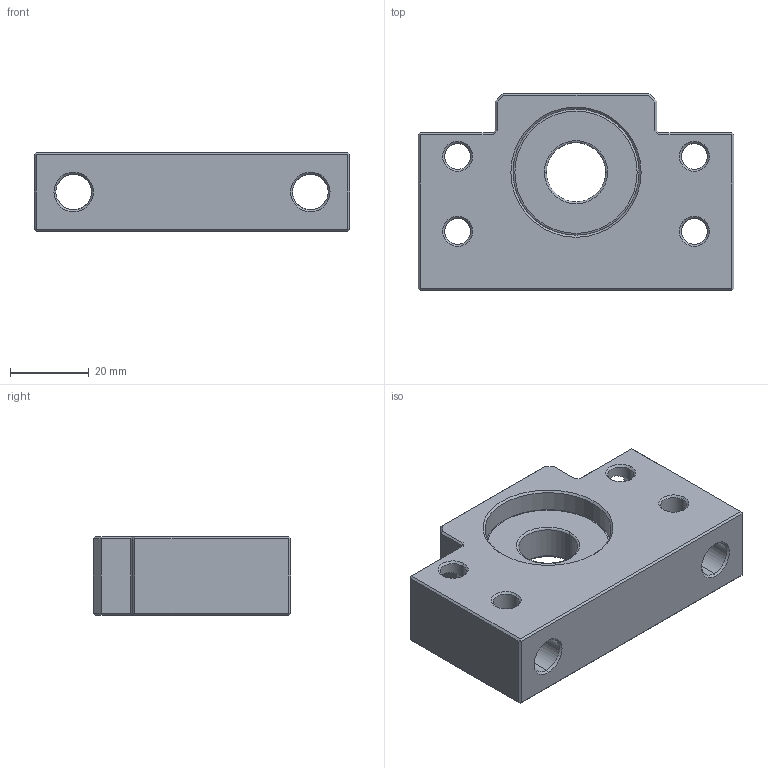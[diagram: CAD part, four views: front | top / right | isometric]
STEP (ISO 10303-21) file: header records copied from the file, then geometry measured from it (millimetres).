
FILE_DESCRIPTION (( 'STEP AP203' ), '1' );
FILE_NAME ('ASGF-15_203.STEP', '2013-02-26T00:36:34', ( '' ), ( '' ), 'SwSTEP 2.0', 'SolidWorks 2012', '' );
FILE_SCHEMA (( 'CONFIG_CONTROL_DESIGN' ));
Length unit declared in the file: millimetre
Products named in the file (1): ASGF-15_203
Bounding box: 80 x 50 x 20 mm (x, y, z)
Volume: 53220.9 mm3; surface area: 15933.5 mm2
Topology: 1 solids, 1 shells, 120 faces, 290 edges, 168 vertices
Faces by surface type: plane 54, cylinder 30, cone 28, torus 8
Entity records: 4015 total; most frequent: CARTESIAN_POINT 1123, DIRECTION 588, ORIENTED_EDGE 580, EDGE_CURVE 290, AXIS2_PLACEMENT_3D 209, VECTOR 170, LINE 170, VERTEX_POINT 168
